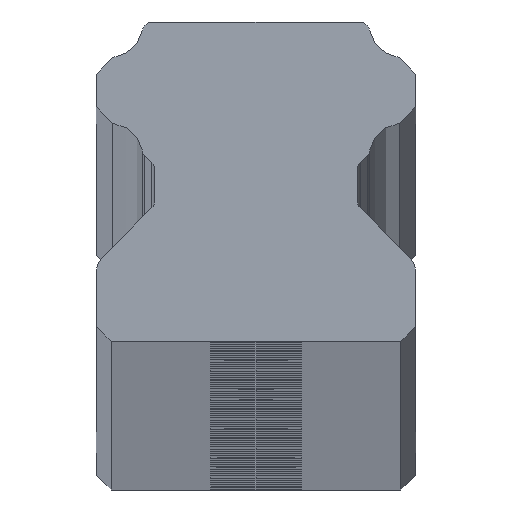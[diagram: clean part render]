
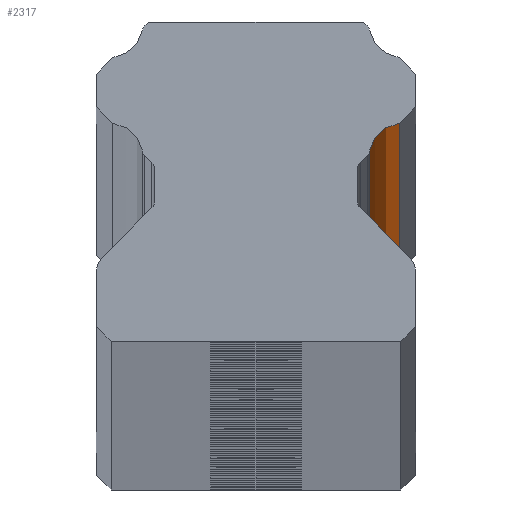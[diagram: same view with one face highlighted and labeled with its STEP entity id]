
A CAD part, top view. The second image highlights one B-rep face of the part: STEP entity #2317.
In plain terms, the highlighted cylindrical face has radius 1.62 mm (diameter 3.24 mm), a partial arc.
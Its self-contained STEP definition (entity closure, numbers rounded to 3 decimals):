
#17 = VERTEX_POINT ( 'NONE', #5915 ) ;
#910 = DIRECTION ( 'NONE',  ( 0., 0., 1. ) ) ;
#931 = AXIS2_PLACEMENT_3D ( 'NONE', #11129, #3055, #1364 ) ;
#1205 = DIRECTION ( 'NONE',  ( 0., 0., -1. ) ) ;
#1364 = DIRECTION ( 'NONE',  ( 1., 0., 0. ) ) ;
#1755 = DIRECTION ( 'NONE',  ( 0., 0., -1. ) ) ;
#2317 = ADVANCED_FACE ( 'NONE', ( #4898 ), #6777, .F. ) ;
#2843 = ORIENTED_EDGE ( 'NONE', *, *, #9104, .T. ) ;
#3055 = DIRECTION ( 'NONE',  ( 0., 0., 1. ) ) ;
#3150 = VERTEX_POINT ( 'NONE', #9425 ) ;
#3233 = ORIENTED_EDGE ( 'NONE', *, *, #10497, .F. ) ;
#3323 = DIRECTION ( 'NONE',  ( 0., 0., -1. ) ) ;
#3673 = LINE ( 'NONE', #9764, #10913 ) ;
#4339 = DIRECTION ( 'NONE',  ( 1., 0., 0. ) ) ;
#4898 = FACE_OUTER_BOUND ( 'NONE', #8940, .T. ) ;
#5057 = CIRCLE ( 'NONE', #931, 1.62 ) ;
#5192 = CARTESIAN_POINT ( 'NONE',  ( 7.069, 3.041, 2000. ) ) ;
#5463 = LINE ( 'NONE', #9215, #6039 ) ;
#5915 = CARTESIAN_POINT ( 'NONE',  ( 5.669, 1.738, -2000. ) ) ;
#6038 = VERTEX_POINT ( 'NONE', #5192 ) ;
#6039 = VECTOR ( 'NONE', #1205, 1000. ) ;
#6079 = ORIENTED_EDGE ( 'NONE', *, *, #7422, .F. ) ;
#6372 = ORIENTED_EDGE ( 'NONE', *, *, #10750, .T. ) ;
#6439 = CARTESIAN_POINT ( 'NONE',  ( 7.069, 3.041, -2000. ) ) ;
#6451 = CIRCLE ( 'NONE', #7018, 1.62 ) ;
#6777 = CYLINDRICAL_SURFACE ( 'NONE', #8529, 1.62 ) ;
#7018 = AXIS2_PLACEMENT_3D ( 'NONE', #7098, #910, #4339 ) ;
#7055 = VERTEX_POINT ( 'NONE', #6439 ) ;
#7098 = CARTESIAN_POINT ( 'NONE',  ( 7.26, 1.432, -2000. ) ) ;
#7422 = EDGE_CURVE ( 'NONE', #6038, #7055, #3673, .T. ) ;
#7707 = CARTESIAN_POINT ( 'NONE',  ( 7.26, 1.432, 2000. ) ) ;
#8484 = DIRECTION ( 'NONE',  ( -1., 0., 0. ) ) ;
#8529 = AXIS2_PLACEMENT_3D ( 'NONE', #7707, #3323, #8484 ) ;
#8940 = EDGE_LOOP ( 'NONE', ( #3233, #6079, #6372, #2843 ) ) ;
#9104 = EDGE_CURVE ( 'NONE', #3150, #17, #5463, .T. ) ;
#9215 = CARTESIAN_POINT ( 'NONE',  ( 5.669, 1.738, 2000. ) ) ;
#9425 = CARTESIAN_POINT ( 'NONE',  ( 5.669, 1.738, 2000. ) ) ;
#9764 = CARTESIAN_POINT ( 'NONE',  ( 7.069, 3.041, 2000. ) ) ;
#10497 = EDGE_CURVE ( 'NONE', #7055, #17, #6451, .T. ) ;
#10750 = EDGE_CURVE ( 'NONE', #6038, #3150, #5057, .T. ) ;
#10913 = VECTOR ( 'NONE', #1755, 1000. ) ;
#11129 = CARTESIAN_POINT ( 'NONE',  ( 7.26, 1.432, 2000. ) ) ;
